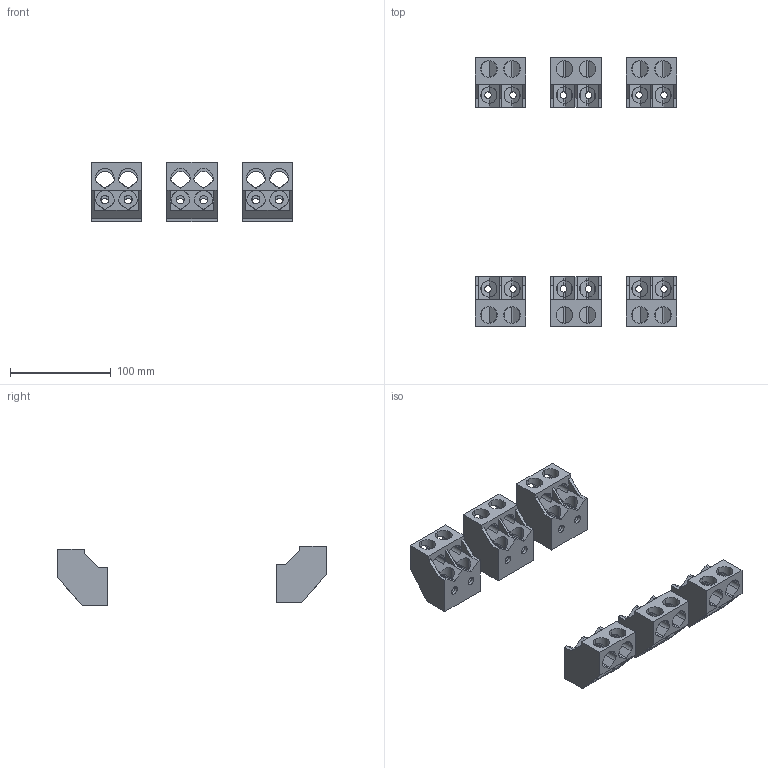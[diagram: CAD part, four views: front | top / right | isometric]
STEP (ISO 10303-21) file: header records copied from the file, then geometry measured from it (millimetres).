
FILE_DESCRIPTION (( 'STEP AP214' ), '1' );
FILE_NAME ('ÂÀ57-39 êîìïëåêò çàæèìîâ 4x120 (êîëîäêà) (3).STEP', '2023-08-07T13:10:17', ( '' ), ( '' ), 'SwSTEP 2.0', 'SolidWorks 2018', '' );
FILE_SCHEMA (( 'AUTOMOTIVE_DESIGN' ));
Length unit declared in the file: millimetre
Products named in the file (1): ÂÀ57-39 êîìïëåêò çàæèìîâ 4x120 (êîëîäêà) (3)
Bounding box: 200 x 266.4 x 59 mm (x, y, z)
Volume: 326301.2 mm3; surface area: 123672.8 mm2
Topology: 6 solids, 6 shells, 492 faces, 1512 edges, 984 vertices
Faces by surface type: cylinder 252, plane 240
Entity records: 25271 total; most frequent: CARTESIAN_POINT 6205, ORIENTED_EDGE 3024, DIRECTION 2678, EDGE_CURVE 1512, VERTEX_POINT 984, VECTOR 948, LINE 948, AXIS2_PLACEMENT_3D 865
